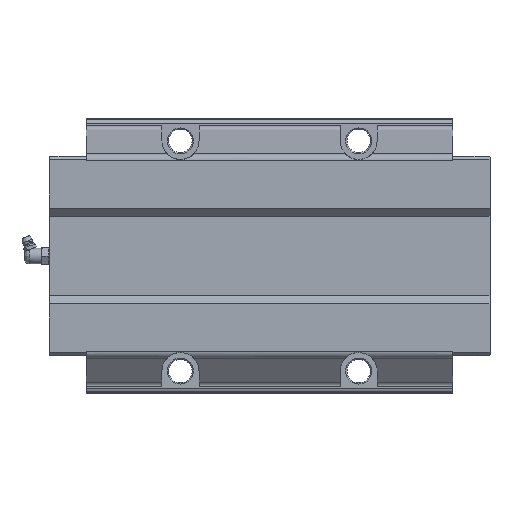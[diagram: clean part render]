
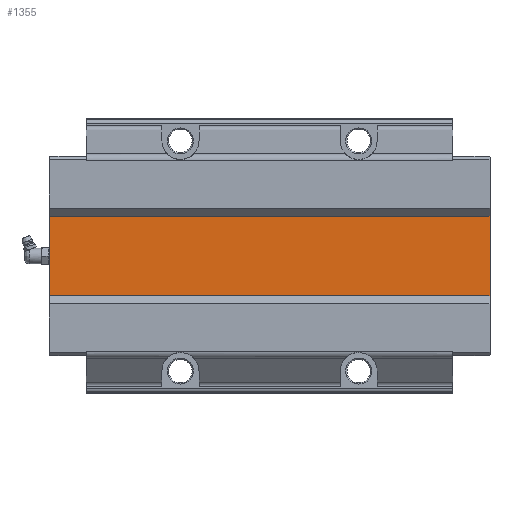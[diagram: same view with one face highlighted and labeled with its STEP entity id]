
A CAD part, front view. The second image highlights one B-rep face of the part: STEP entity #1355.
In plain terms, the highlighted planar face has unit normal (0, -1, 0).
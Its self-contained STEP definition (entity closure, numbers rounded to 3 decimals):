
#55 = EDGE_CURVE ( 'NONE', #5071, #4718, #3807, .T. ) ;
#93 = ORIENTED_EDGE ( 'NONE', *, *, #556, .F. ) ;
#490 = FACE_OUTER_BOUND ( 'NONE', #6426, .T. ) ;
#499 = DIRECTION ( 'NONE',  ( -1., 0., 0. ) ) ;
#556 = EDGE_CURVE ( 'NONE', #1275, #5071, #1309, .T. ) ;
#695 = DIRECTION ( 'NONE',  ( 0., 1., 0. ) ) ;
#1147 = VERTEX_POINT ( 'NONE', #3047 ) ;
#1232 = CARTESIAN_POINT ( 'NONE',  ( 586., 53., -26.23 ) ) ;
#1234 = ORIENTED_EDGE ( 'NONE', *, *, #55, .F. ) ;
#1262 = CARTESIAN_POINT ( 'NONE',  ( 314., 53., -26.23 ) ) ;
#1275 = VERTEX_POINT ( 'NONE', #3195 ) ;
#1309 = LINE ( 'NONE', #5719, #2114 ) ;
#1355 = ADVANCED_FACE ( 'NONE', ( #490 ), #5845, .F. ) ;
#1426 = CARTESIAN_POINT ( 'NONE',  ( 586., 53., 26.23 ) ) ;
#1710 = VECTOR ( 'NONE', #3214, 1000. ) ;
#2114 = VECTOR ( 'NONE', #499, 1000. ) ;
#2564 = CARTESIAN_POINT ( 'NONE',  ( 586., 53., -26.23 ) ) ;
#2581 = LINE ( 'NONE', #1426, #5046 ) ;
#2787 = VECTOR ( 'NONE', #6277, 1000. ) ;
#3047 = CARTESIAN_POINT ( 'NONE',  ( 586., 53., 26.23 ) ) ;
#3087 = EDGE_CURVE ( 'NONE', #4718, #1147, #2581, .T. ) ;
#3195 = CARTESIAN_POINT ( 'NONE',  ( 586., 53., -26.23 ) ) ;
#3214 = DIRECTION ( 'NONE',  ( 0., 0., 1. ) ) ;
#3611 = ORIENTED_EDGE ( 'NONE', *, *, #3087, .F. ) ;
#3807 = LINE ( 'NONE', #5862, #1710 ) ;
#4073 = AXIS2_PLACEMENT_3D ( 'NONE', #1232, #695, #6468 ) ;
#4718 = VERTEX_POINT ( 'NONE', #6025 ) ;
#4720 = ORIENTED_EDGE ( 'NONE', *, *, #6388, .F. ) ;
#5046 = VECTOR ( 'NONE', #5631, 1000. ) ;
#5071 = VERTEX_POINT ( 'NONE', #1262 ) ;
#5631 = DIRECTION ( 'NONE',  ( 1., 0., 0. ) ) ;
#5719 = CARTESIAN_POINT ( 'NONE',  ( 586., 53., -26.23 ) ) ;
#5745 = LINE ( 'NONE', #2564, #2787 ) ;
#5845 = PLANE ( 'NONE',  #4073 ) ;
#5862 = CARTESIAN_POINT ( 'NONE',  ( 314., 53., -26.23 ) ) ;
#6025 = CARTESIAN_POINT ( 'NONE',  ( 314., 53., 26.23 ) ) ;
#6277 = DIRECTION ( 'NONE',  ( 0., 0., -1. ) ) ;
#6388 = EDGE_CURVE ( 'NONE', #1147, #1275, #5745, .T. ) ;
#6426 = EDGE_LOOP ( 'NONE', ( #93, #4720, #3611, #1234 ) ) ;
#6468 = DIRECTION ( 'NONE',  ( 0., 0., 1. ) ) ;
